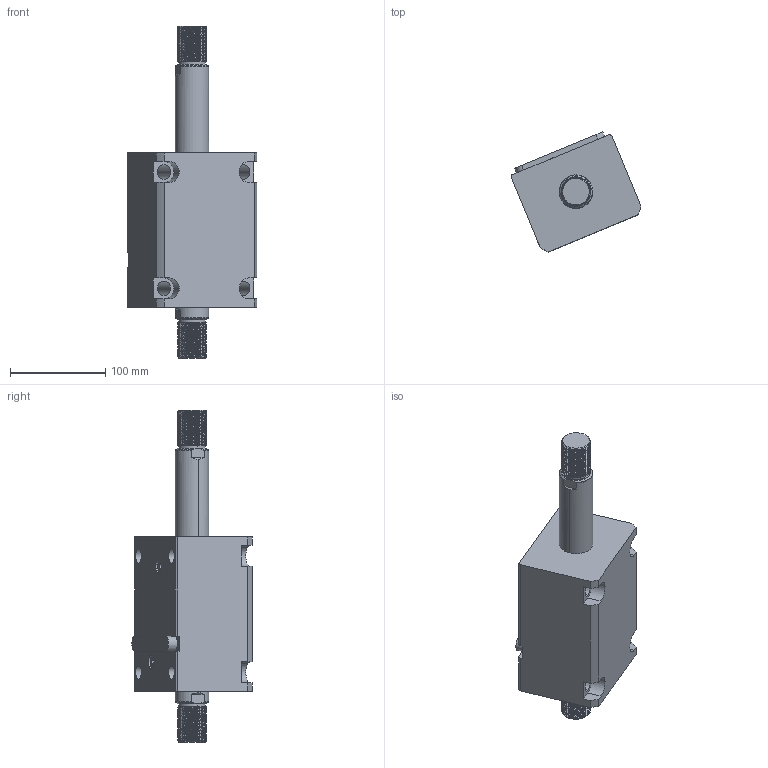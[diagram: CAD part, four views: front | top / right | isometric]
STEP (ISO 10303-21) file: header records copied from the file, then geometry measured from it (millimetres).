
FILE_DESCRIPTION (( 'STEP AP214' ), '1' );
FILE_NAME ('chtb-lwm63x80w_asm.STEP', '2018-05-22T02:00:20', ( 'Windows' ), ( 'Microsoft' ), 'SwSTEP 2.0', 'SolidWorks 2015', '' );
FILE_SCHEMA (( 'AUTOMOTIVE_DESIGN' ));
Length unit declared in the file: millimetre
Products named in the file (5): CHTB-SW63X80WHSG; CHTB-LWM63X80NBT; CHTB-LA63PJ; CHTB-63QG; chtb-lwm63x80w_asm
Assembly tree (4 placements, depth 2):
  chtb-lwm63x80w_asm
    CHTB-63QG
    CHTB-LA63PJ
    CHTB-LWM63X80NBT
    CHTB-SW63X80WHSG
Bounding box: 135.77 x 126.06 x 348 mm (x, y, z)
Volume: 1547989.2 mm3; surface area: 204680.2 mm2
Topology: 4 solids, 4 shells, 298 faces, 869 edges, 587 vertices
Faces by surface type: cylinder 203, plane 55, bspline 16, cone 12, torus 12
Entity records: 27660 total; most frequent: CARTESIAN_POINT 20506, ORIENTED_EDGE 1730, DIRECTION 1186, EDGE_CURVE 865, VERTEX_POINT 587, AXIS2_PLACEMENT_3D 440, EDGE_LOOP 326, LINE 306
